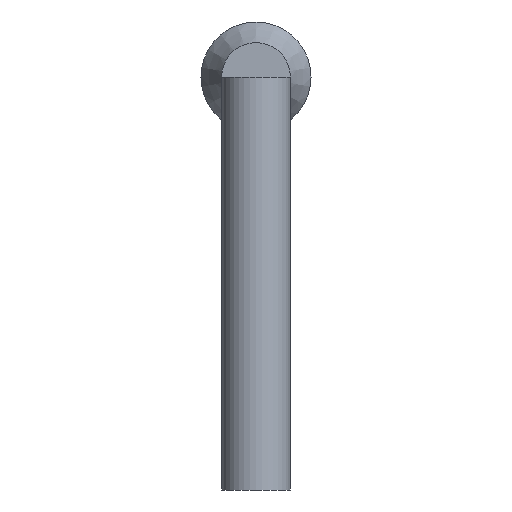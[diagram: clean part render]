
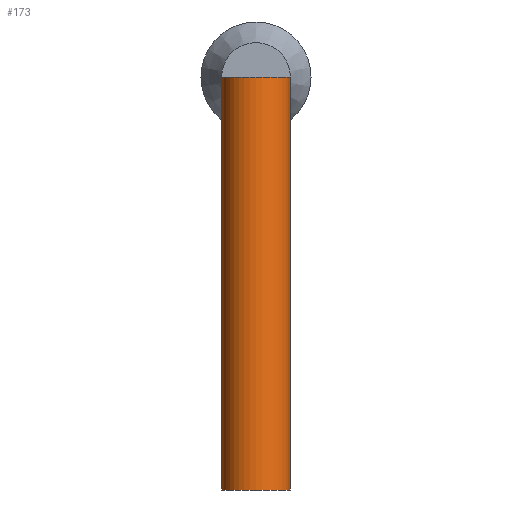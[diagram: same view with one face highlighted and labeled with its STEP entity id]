
A CAD part, left-side view. The second image highlights one B-rep face of the part: STEP entity #173.
In plain terms, the highlighted cylindrical face has radius 0.25 mm (diameter 0.5 mm), a full revolution.
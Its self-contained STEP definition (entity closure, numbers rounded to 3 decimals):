
#173 = ADVANCED_FACE('',(#174),#201,.T.);
#174 = FACE_BOUND('',#175,.T.);
#175 = EDGE_LOOP('',(#176,#185,#193,#200));
#176 = ORIENTED_EDGE('',*,*,#177,.F.);
#177 = EDGE_CURVE('',#178,#178,#180,.T.);
#178 = VERTEX_POINT('',#179);
#179 = CARTESIAN_POINT('',(-1.52,0.,-3.));
#180 = CIRCLE('',#181,0.25);
#181 = AXIS2_PLACEMENT_3D('',#182,#183,#184);
#182 = CARTESIAN_POINT('',(-1.27,0.,-3.));
#183 = DIRECTION('',(0.,0.,-1.));
#184 = DIRECTION('',(-1.,0.,-0.));
#185 = ORIENTED_EDGE('',*,*,#186,.F.);
#186 = EDGE_CURVE('',#187,#178,#189,.T.);
#187 = VERTEX_POINT('',#188);
#188 = CARTESIAN_POINT('',(-1.52,0.,0.));
#189 = LINE('',#190,#191);
#190 = CARTESIAN_POINT('',(-1.52,0.,0.));
#191 = VECTOR('',#192,1.);
#192 = DIRECTION('',(0.,0.,-1.));
#193 = ORIENTED_EDGE('',*,*,#194,.T.);
#194 = EDGE_CURVE('',#187,#187,#195,.T.);
#195 = CIRCLE('',#196,0.25);
#196 = AXIS2_PLACEMENT_3D('',#197,#198,#199);
#197 = CARTESIAN_POINT('',(-1.27,0.,0.));
#198 = DIRECTION('',(0.,0.,-1.));
#199 = DIRECTION('',(-1.,0.,-0.));
#200 = ORIENTED_EDGE('',*,*,#186,.T.);
#201 = CYLINDRICAL_SURFACE('',#202,0.25);
#202 = AXIS2_PLACEMENT_3D('',#203,#204,#205);
#203 = CARTESIAN_POINT('',(-1.27,0.,0.));
#204 = DIRECTION('',(0.,0.,-1.));
#205 = DIRECTION('',(-1.,0.,-0.));
